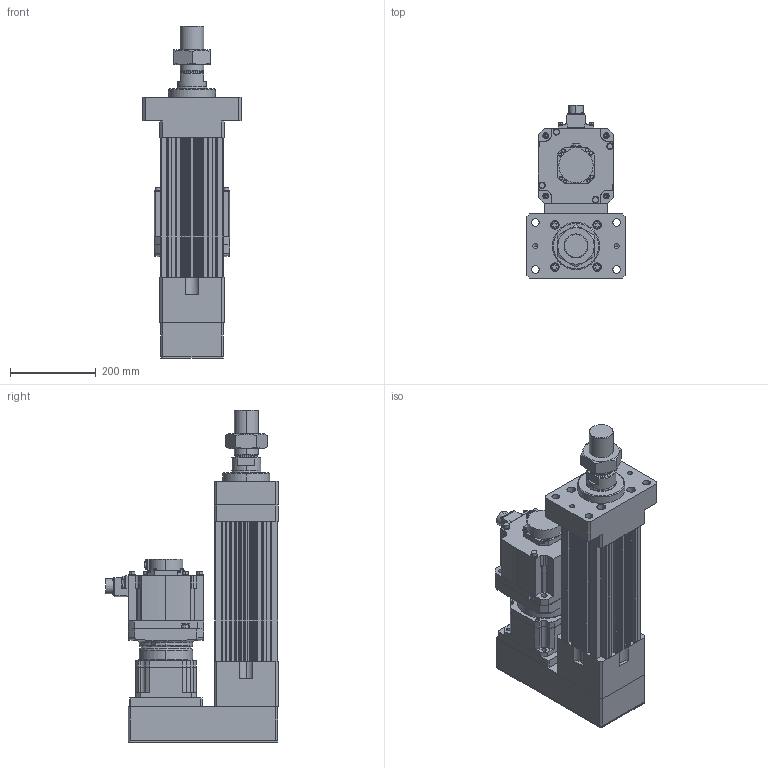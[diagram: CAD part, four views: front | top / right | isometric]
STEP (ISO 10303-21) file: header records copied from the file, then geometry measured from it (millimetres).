
FILE_DESCRIPTION (( 'STEP AP203' ), '1' );
FILE_NAME ('HES150NS(HS)-P050-W035G00-M-FMA.STEP', '2023-01-31T10:06:14', ( 'tms' ), ( '' ), 'SwSTEP 2.0', 'SolidWorks 2013', '' );
FILE_SCHEMA (( 'CONFIG_CONTROL_DESIGN' ));
Length unit declared in the file: millimetre
Products named in the file (9): HES150-P050-G142-FMA; P0403500801; HES150NS(HS)-P050-W035G00-M-FMA; HG-SR352; AB142-003[HG-SR352]; P1301500001; AB1421; M56X2.0P; HES150 ROD M ST050
Assembly tree (8 placements, depth 3):
  HES150NS(HS)-P050-W035G00-M-FMA
    HES150-P050-G142-FMA
    HES150 ROD M ST050
    M56X2.0P
    AB142-003[HG-SR352]
      AB1421
      P1301500001
      P0403500801
    HG-SR352
Bounding box: 230 x 403.85 x 776 mm (x, y, z)
Volume: 15853027.4 mm3; surface area: 1419655.4 mm2
Topology: 4 solids, 18 shells, 1426 faces, 3722 edges, 2416 vertices
Faces by surface type: cylinder 669, plane 531, cone 144, bspline 76, torus 6
Entity records: 52806 total; most frequent: CARTESIAN_POINT 16363, DIRECTION 7620, ORIENTED_EDGE 7346, EDGE_CURVE 3695, AXIS2_PLACEMENT_3D 2898, VERTEX_POINT 2416, VECTOR 1824, LINE 1824
